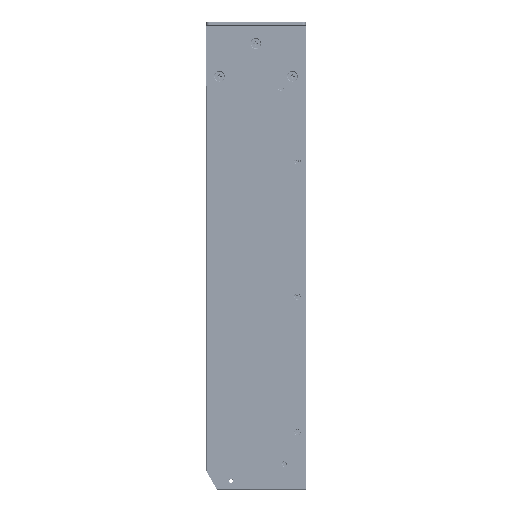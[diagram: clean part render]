
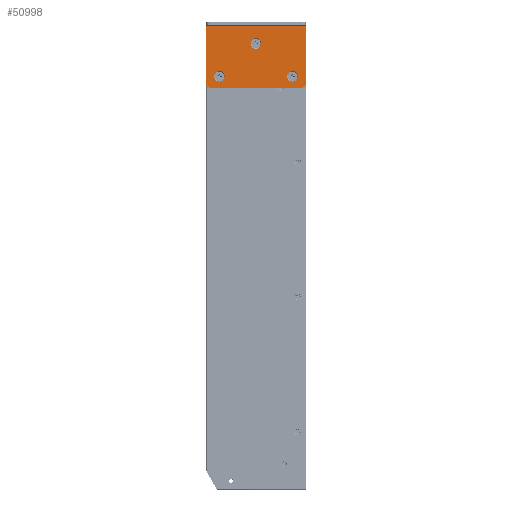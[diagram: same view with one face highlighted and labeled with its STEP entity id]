
A CAD part, left-side view. The second image highlights one B-rep face of the part: STEP entity #50998.
In plain terms, the highlighted planar face has unit normal (-1, 0, 0) as drawn and (1, 0, 0) by its records, which use the part's own axes.
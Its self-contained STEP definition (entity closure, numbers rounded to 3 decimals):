
#7870 = AXIS2_PLACEMENT_3D ( 'NONE', #478406, #282169, #402463 ) ;
#16823 = CIRCLE ( 'NONE', #117185, 4.7 ) ;
#19679 = DIRECTION ( 'NONE',  ( 0., 0., 1. ) ) ;
#21097 = ORIENTED_EDGE ( 'NONE', *, *, #301327, .T. ) ;
#21750 = ORIENTED_EDGE ( 'NONE', *, *, #97047, .F. ) ;
#22430 = CARTESIAN_POINT ( 'NONE',  ( 3., 88.05, -54.5 ) ) ;
#25928 = FACE_BOUND ( 'NONE', #154074, .T. ) ;
#32053 = EDGE_LOOP ( 'NONE', ( #119307, #21097, #458293, #332840, #496403, #91742 ) ) ;
#39098 = ORIENTED_EDGE ( 'NONE', *, *, #211571, .F. ) ;
#42532 = CARTESIAN_POINT ( 'NONE',  ( 3., 11.725, -14.7 ) ) ;
#50998 = ADVANCED_FACE ( 'NONE', ( #101709, #420734, #25928, #256029 ), #185330, .F. ) ;
#57398 = DIRECTION ( 'NONE',  ( -1., 0., 0. ) ) ;
#65007 = CARTESIAN_POINT ( 'NONE',  ( 3., 44.025, -39. ) ) ;
#83570 = DIRECTION ( 'NONE',  ( 0., 0., -1. ) ) ;
#84625 = AXIS2_PLACEMENT_3D ( 'NONE', #130476, #449538, #83570 ) ;
#88324 = CARTESIAN_POINT ( 'NONE',  ( 3., 3., 0. ) ) ;
#91742 = ORIENTED_EDGE ( 'NONE', *, *, #476269, .T. ) ;
#92712 = CARTESIAN_POINT ( 'NONE',  ( 3., 88.05, -3. ) ) ;
#92940 = LINE ( 'NONE', #252388, #317622 ) ;
#97047 = EDGE_CURVE ( 'NONE', #358758, #206162, #125644, .T. ) ;
#101709 = FACE_BOUND ( 'NONE', #460932, .T. ) ;
#108737 = CIRCLE ( 'NONE', #326052, 4.7 ) ;
#111385 = DIRECTION ( 'NONE',  ( 0., 0., -1. ) ) ;
#117185 = AXIS2_PLACEMENT_3D ( 'NONE', #302392, #304997, #111385 ) ;
#119307 = ORIENTED_EDGE ( 'NONE', *, *, #407154, .F. ) ;
#120776 = VERTEX_POINT ( 'NONE', #88324 ) ;
#125644 = CIRCLE ( 'NONE', #200663, 4.7 ) ;
#125771 = VERTEX_POINT ( 'NONE', #402111 ) ;
#127549 = CARTESIAN_POINT ( 'NONE',  ( 3., 11.725, -10. ) ) ;
#130476 = CARTESIAN_POINT ( 'NONE',  ( 3., 44.025, -39. ) ) ;
#131779 = CARTESIAN_POINT ( 'NONE',  ( 3., 88.05, 0. ) ) ;
#134355 = LINE ( 'NONE', #131779, #442027 ) ;
#143372 = CARTESIAN_POINT ( 'NONE',  ( 3., 0., -54.5 ) ) ;
#146690 = CARTESIAN_POINT ( 'NONE',  ( 3., 76.325, -10. ) ) ;
#149408 = EDGE_CURVE ( 'NONE', #229360, #367493, #108737, .T. ) ;
#151027 = AXIS2_PLACEMENT_3D ( 'NONE', #182548, #462431, #423140 ) ;
#154074 = EDGE_LOOP ( 'NONE', ( #246630, #39098 ) ) ;
#157019 = DIRECTION ( 'NONE',  ( 1., 0., 0. ) ) ;
#160393 = EDGE_CURVE ( 'NONE', #206162, #358758, #215441, .T. ) ;
#173539 = DIRECTION ( 'NONE',  ( 0., 0., -1. ) ) ;
#176335 = CIRCLE ( 'NONE', #84625, 4.7 ) ;
#182548 = CARTESIAN_POINT ( 'NONE',  ( 3., 3., -3. ) ) ;
#185330 = PLANE ( 'NONE',  #230524 ) ;
#187024 = LINE ( 'NONE', #22430, #468989 ) ;
#193655 = CARTESIAN_POINT ( 'NONE',  ( 3., 44.025, -43.7 ) ) ;
#199994 = CIRCLE ( 'NONE', #7870, 3. ) ;
#200663 = AXIS2_PLACEMENT_3D ( 'NONE', #127549, #365581, #205998 ) ;
#205998 = DIRECTION ( 'NONE',  ( 0., 0., -1. ) ) ;
#206124 = VERTEX_POINT ( 'NONE', #479238 ) ;
#206162 = VERTEX_POINT ( 'NONE', #42532 ) ;
#211571 = EDGE_CURVE ( 'NONE', #206124, #125771, #16823, .T. ) ;
#215441 = CIRCLE ( 'NONE', #457804, 4.7 ) ;
#215897 = VERTEX_POINT ( 'NONE', #394519 ) ;
#216777 = DIRECTION ( 'NONE',  ( 0., 0., 1. ) ) ;
#223398 = EDGE_CURVE ( 'NONE', #299175, #298166, #134355, .T. ) ;
#223624 = DIRECTION ( 'NONE',  ( 0., -1., 0. ) ) ;
#225449 = ORIENTED_EDGE ( 'NONE', *, *, #149408, .F. ) ;
#229360 = VERTEX_POINT ( 'NONE', #193655 ) ;
#230524 = AXIS2_PLACEMENT_3D ( 'NONE', #452320, #57398, #216777 ) ;
#246630 = ORIENTED_EDGE ( 'NONE', *, *, #458673, .F. ) ;
#252388 = CARTESIAN_POINT ( 'NONE',  ( 3., 0., 0. ) ) ;
#255037 = VERTEX_POINT ( 'NONE', #143372 ) ;
#256029 = FACE_OUTER_BOUND ( 'NONE', #32053, .T. ) ;
#259659 = DIRECTION ( 'NONE',  ( 0., 1., 0. ) ) ;
#277428 = CIRCLE ( 'NONE', #310620, 4.7 ) ;
#277912 = DIRECTION ( 'NONE',  ( 0., 0., -1. ) ) ;
#282169 = DIRECTION ( 'NONE',  ( 1., 0., 0. ) ) ;
#285028 = DIRECTION ( 'NONE',  ( 0., 0., -1. ) ) ;
#298166 = VERTEX_POINT ( 'NONE', #342122 ) ;
#299175 = VERTEX_POINT ( 'NONE', #92712 ) ;
#301327 = EDGE_CURVE ( 'NONE', #120776, #422793, #417131, .T. ) ;
#302392 = CARTESIAN_POINT ( 'NONE',  ( 3., 76.325, -10. ) ) ;
#304697 = VECTOR ( 'NONE', #259659, 1000. ) ;
#304997 = DIRECTION ( 'NONE',  ( 1., 0., 0. ) ) ;
#310620 = AXIS2_PLACEMENT_3D ( 'NONE', #146690, #157019, #285028 ) ;
#314418 = EDGE_CURVE ( 'NONE', #298166, #255037, #187024, .T. ) ;
#314581 = DIRECTION ( 'NONE',  ( 1., 0., 0. ) ) ;
#317622 = VECTOR ( 'NONE', #19679, 1000. ) ;
#326052 = AXIS2_PLACEMENT_3D ( 'NONE', #65007, #342160, #420607 ) ;
#332840 = ORIENTED_EDGE ( 'NONE', *, *, #314418, .F. ) ;
#339827 = ORIENTED_EDGE ( 'NONE', *, *, #160393, .F. ) ;
#342122 = CARTESIAN_POINT ( 'NONE',  ( 3., 88.05, -54.5 ) ) ;
#342160 = DIRECTION ( 'NONE',  ( 1., 0., 0. ) ) ;
#356157 = ORIENTED_EDGE ( 'NONE', *, *, #382170, .F. ) ;
#358758 = VERTEX_POINT ( 'NONE', #382409 ) ;
#359941 = EDGE_LOOP ( 'NONE', ( #339827, #21750 ) ) ;
#365581 = DIRECTION ( 'NONE',  ( 1., 0., 0. ) ) ;
#367493 = VERTEX_POINT ( 'NONE', #438667 ) ;
#370888 = EDGE_CURVE ( 'NONE', #255037, #422793, #92940, .T. ) ;
#382170 = EDGE_CURVE ( 'NONE', #367493, #229360, #176335, .T. ) ;
#382409 = CARTESIAN_POINT ( 'NONE',  ( 3., 11.725, -5.3 ) ) ;
#394519 = CARTESIAN_POINT ( 'NONE',  ( 3., 85.05, 0. ) ) ;
#402111 = CARTESIAN_POINT ( 'NONE',  ( 3., 76.325, -14.7 ) ) ;
#402463 = DIRECTION ( 'NONE',  ( 0., 0., 1. ) ) ;
#407154 = EDGE_CURVE ( 'NONE', #120776, #215897, #458468, .T. ) ;
#414567 = CARTESIAN_POINT ( 'NONE',  ( 3., 0., -3. ) ) ;
#417131 = CIRCLE ( 'NONE', #151027, 3. ) ;
#420607 = DIRECTION ( 'NONE',  ( 0., 0., -1. ) ) ;
#420734 = FACE_BOUND ( 'NONE', #359941, .T. ) ;
#422793 = VERTEX_POINT ( 'NONE', #414567 ) ;
#423140 = DIRECTION ( 'NONE',  ( 0., 0., 1. ) ) ;
#438667 = CARTESIAN_POINT ( 'NONE',  ( 3., 44.025, -34.3 ) ) ;
#442027 = VECTOR ( 'NONE', #173539, 1000. ) ;
#449538 = DIRECTION ( 'NONE',  ( 1., 0., 0. ) ) ;
#452320 = CARTESIAN_POINT ( 'NONE',  ( 3., 0., 0. ) ) ;
#457804 = AXIS2_PLACEMENT_3D ( 'NONE', #476729, #314581, #277912 ) ;
#458293 = ORIENTED_EDGE ( 'NONE', *, *, #370888, .F. ) ;
#458468 = LINE ( 'NONE', #468829, #304697 ) ;
#458673 = EDGE_CURVE ( 'NONE', #125771, #206124, #277428, .T. ) ;
#460932 = EDGE_LOOP ( 'NONE', ( #225449, #356157 ) ) ;
#462431 = DIRECTION ( 'NONE',  ( 1., 0., 0. ) ) ;
#468829 = CARTESIAN_POINT ( 'NONE',  ( 3., 0., 0. ) ) ;
#468989 = VECTOR ( 'NONE', #223624, 1000. ) ;
#476269 = EDGE_CURVE ( 'NONE', #299175, #215897, #199994, .T. ) ;
#476729 = CARTESIAN_POINT ( 'NONE',  ( 3., 11.725, -10. ) ) ;
#478406 = CARTESIAN_POINT ( 'NONE',  ( 3., 85.05, -3. ) ) ;
#479238 = CARTESIAN_POINT ( 'NONE',  ( 3., 76.325, -5.3 ) ) ;
#496403 = ORIENTED_EDGE ( 'NONE', *, *, #223398, .F. ) ;
